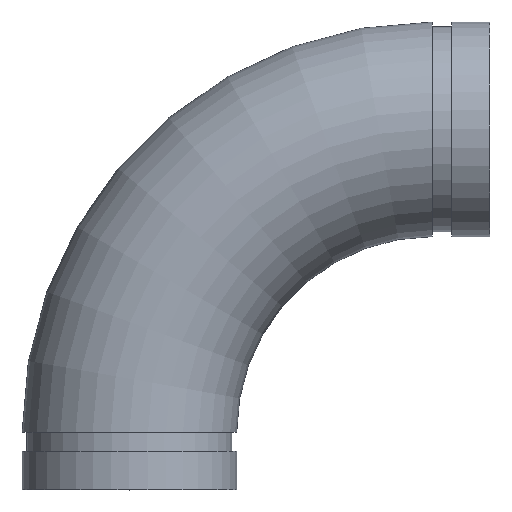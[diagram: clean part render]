
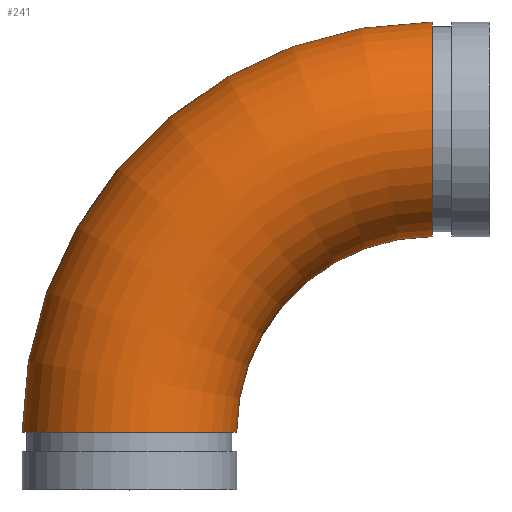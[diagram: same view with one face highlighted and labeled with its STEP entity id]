
A CAD part, top view. The second image highlights one B-rep face of the part: STEP entity #241.
In plain terms, the highlighted toroidal (fillet/blend) face has major radius 125.527 mm and minor radius 44.45 mm.
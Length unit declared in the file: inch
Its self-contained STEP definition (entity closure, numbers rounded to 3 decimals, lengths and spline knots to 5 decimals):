
#15=TOROIDAL_SURFACE('',#297,4.942,1.75);
#38=FACE_OUTER_BOUND('',#56,.T.);
#56=EDGE_LOOP('',(#195,#196,#197,#198,#199,#200));
#78=CIRCLE('',#271,1.75);
#79=CIRCLE('',#272,1.75);
#88=CIRCLE('',#285,1.75);
#89=CIRCLE('',#286,1.75);
#96=CIRCLE('',#298,3.192);
#102=VERTEX_POINT('',#399);
#103=VERTEX_POINT('',#400);
#112=VERTEX_POINT('',#424);
#113=VERTEX_POINT('',#425);
#125=EDGE_CURVE('',#102,#103,#78,.T.);
#126=EDGE_CURVE('',#103,#102,#79,.T.);
#136=EDGE_CURVE('',#112,#113,#88,.T.);
#137=EDGE_CURVE('',#113,#112,#89,.T.);
#147=EDGE_CURVE('',#103,#113,#96,.T.);
#195=ORIENTED_EDGE('',*,*,#125,.T.);
#196=ORIENTED_EDGE('',*,*,#147,.T.);
#197=ORIENTED_EDGE('',*,*,#136,.F.);
#198=ORIENTED_EDGE('',*,*,#137,.F.);
#199=ORIENTED_EDGE('',*,*,#147,.F.);
#200=ORIENTED_EDGE('',*,*,#126,.T.);
#241=ADVANCED_FACE('',(#38),#15,.T.);
#271=AXIS2_PLACEMENT_3D('',#401,#318,#319);
#272=AXIS2_PLACEMENT_3D('',#402,#320,#321);
#285=AXIS2_PLACEMENT_3D('',#426,#347,#348);
#286=AXIS2_PLACEMENT_3D('',#427,#349,#350);
#297=AXIS2_PLACEMENT_3D('',#446,#374,#375);
#298=AXIS2_PLACEMENT_3D('',#447,#376,#377);
#318=DIRECTION('center_axis',(0.,1.,0.));
#319=DIRECTION('ref_axis',(-1.,0.,0.));
#320=DIRECTION('center_axis',(0.,1.,0.));
#321=DIRECTION('ref_axis',(-1.,0.,0.));
#347=DIRECTION('center_axis',(1.,0.,0.));
#348=DIRECTION('ref_axis',(0.,1.,0.));
#349=DIRECTION('center_axis',(1.,0.,0.));
#350=DIRECTION('ref_axis',(0.,1.,0.));
#374=DIRECTION('center_axis',(0.,0.,1.));
#375=DIRECTION('ref_axis',(1.,0.,0.));
#376=DIRECTION('center_axis',(0.,0.,-1.));
#377=DIRECTION('ref_axis',(1.,0.,0.));
#399=CARTESIAN_POINT('',(0.,0.938,-1.75));
#400=CARTESIAN_POINT('',(1.75,0.938,0.));
#401=CARTESIAN_POINT('Origin',(0.,0.938,0.));
#402=CARTESIAN_POINT('Origin',(0.,0.938,0.));
#424=CARTESIAN_POINT('',(4.942,7.63,0.));
#425=CARTESIAN_POINT('',(4.942,4.13,0.));
#426=CARTESIAN_POINT('Origin',(4.942,5.88,0.));
#427=CARTESIAN_POINT('Origin',(4.942,5.88,0.));
#446=CARTESIAN_POINT('Origin',(4.942,0.938,0.));
#447=CARTESIAN_POINT('Origin',(4.942,0.938,0.));
